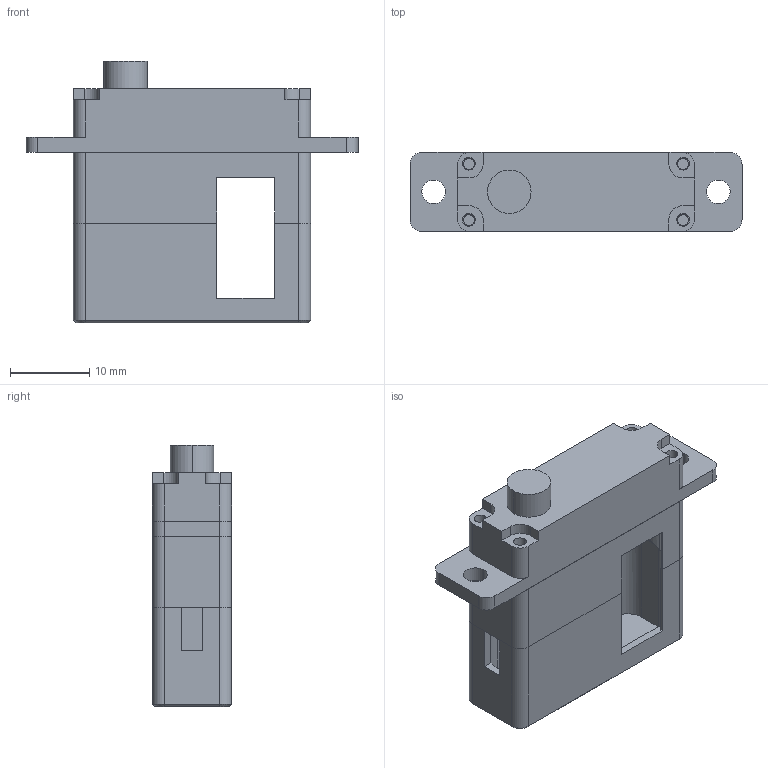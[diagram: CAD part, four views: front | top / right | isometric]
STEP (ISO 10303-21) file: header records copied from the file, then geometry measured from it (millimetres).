
FILE_DESCRIPTION (( 'STEP AP214' ), '1' );
FILE_NAME ('DS145MG_DM_20200402.STEP', '2023-11-04T08:41:19', ( '' ), ( '' ), 'SwSTEP 2.0', 'SolidWorks 2016', '' );
FILE_SCHEMA (( 'AUTOMOTIVE_DESIGN' ));
Length unit declared in the file: millimetre
Products named in the file (1): DS145MG_DM_20200402
Bounding box: 42 x 10 x 33.1 mm (x, y, z)
Volume: 3800.9 mm3; surface area: 6311 mm2
Topology: 4 solids, 4 shells, 245 faces, 688 edges, 454 vertices
Faces by surface type: plane 124, cylinder 116, cone 5
Entity records: 8152 total; most frequent: CARTESIAN_POINT 1452, DIRECTION 1449, ORIENTED_EDGE 1376, EDGE_CURVE 688, AXIS2_PLACEMENT_3D 523, VERTEX_POINT 454, VECTOR 403, LINE 403
